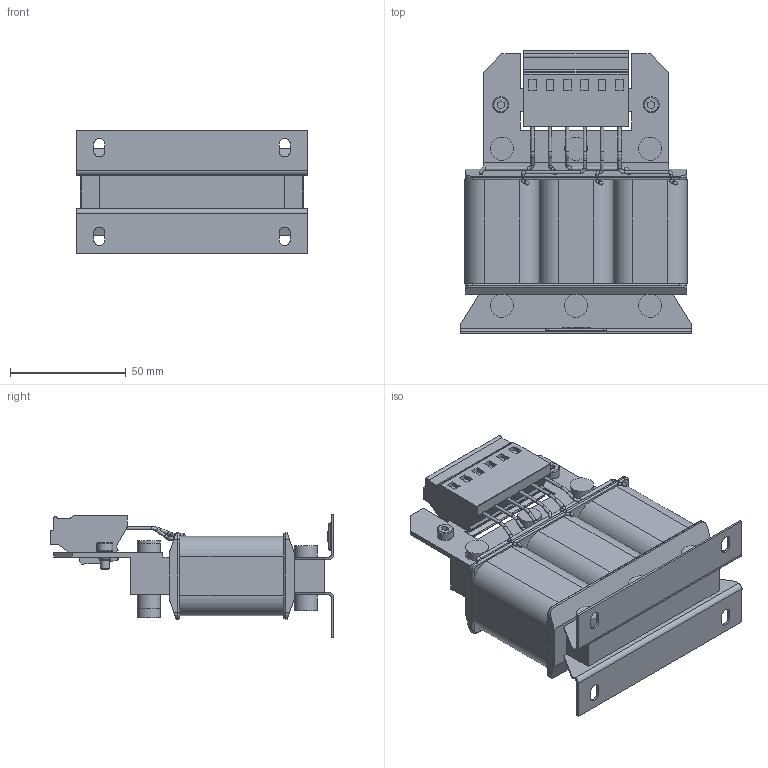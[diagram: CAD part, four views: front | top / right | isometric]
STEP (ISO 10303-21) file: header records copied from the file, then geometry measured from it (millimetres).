
FILE_DESCRIPTION (( 'STEP AP214' ), '1' );
FILE_NAME ('09Z1B03-1000.STEP', '2022-04-07T09:39:30', ( '' ), ( '' ), 'SwSTEP 2.0', 'SolidWorks 2019', '' );
FILE_SCHEMA (( 'AUTOMOTIVE_DESIGN' ));
Length unit declared in the file: millimetre
Products named in the file (1): 09Z1B03-1000
Bounding box: 100 x 122.3 x 53.3 mm (x, y, z)
Volume: 245570.1 mm3; surface area: 49128.7 mm2
Topology: 1 solids, 1 shells, 387 faces, 1025 edges, 664 vertices
Faces by surface type: plane 200, cylinder 121, torus 40, bspline 22, cone 4
Full cylindrical faces by diameter (mm): 1.4 x33, 4 x4, 4.78 x2, 7 x2, 10 x12
Entity records: 12821 total; most frequent: CARTESIAN_POINT 3672, ORIENTED_EDGE 1814, DIRECTION 1712, EDGE_CURVE 907, VERTEX_POINT 635, AXIS2_PLACEMENT_3D 597, EDGE_LOOP 528, VECTOR 518
